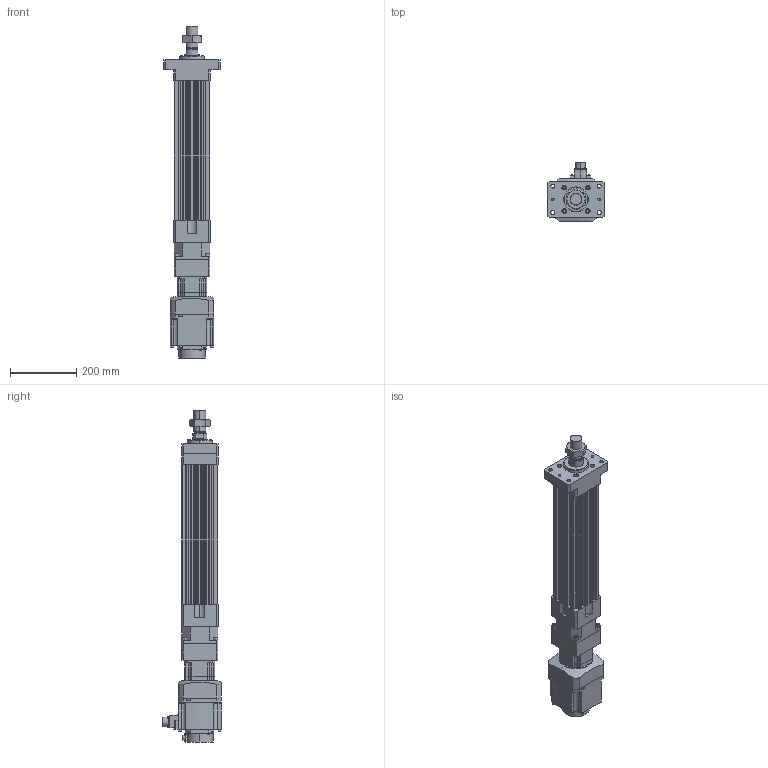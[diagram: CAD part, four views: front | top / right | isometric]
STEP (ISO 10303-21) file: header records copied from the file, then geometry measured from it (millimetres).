
FILE_DESCRIPTION (( 'STEP AP203' ), '1' );
FILE_NAME ('HES110NS(HS)-S250-W010G00-M-FM.STEP', '2023-01-27T07:14:47', ( 'tms' ), ( '' ), 'SwSTEP 2.0', 'SolidWorks 2013', '' );
FILE_SCHEMA (( 'CONFIG_CONTROL_DESIGN' ));
Length unit declared in the file: millimetre
Products named in the file (8): HES110NS(HS)-S250-W010G00-M-FM; AB0901; M36X1.5P; HES110 ROD M ST250; HG-SR102; HES110-S250-G090-FM; P0401301004; AB090-003[HG-SR102B]
Assembly tree (7 placements, depth 3):
  HES110NS(HS)-S250-W010G00-M-FM
    HES110-S250-G090-FM
    HES110 ROD M ST250
    M36X1.5P
    AB090-003[HG-SR102B]
      AB0901
      P0401301004
    HG-SR102
Bounding box: 170 x 177.49 x 1001.5 mm (x, y, z)
Volume: 6677681.7 mm3; surface area: 871109.1 mm2
Topology: 4 solids, 15 shells, 1165 faces, 2950 edges, 1921 vertices
Faces by surface type: plane 558, cylinder 523, cone 72, bspline 8, torus 4
Entity records: 37081 total; most frequent: CARTESIAN_POINT 7224, DIRECTION 6367, ORIENTED_EDGE 5848, EDGE_CURVE 2934, AXIS2_PLACEMENT_3D 2335, VERTEX_POINT 1921, LINE 1697, VECTOR 1697
